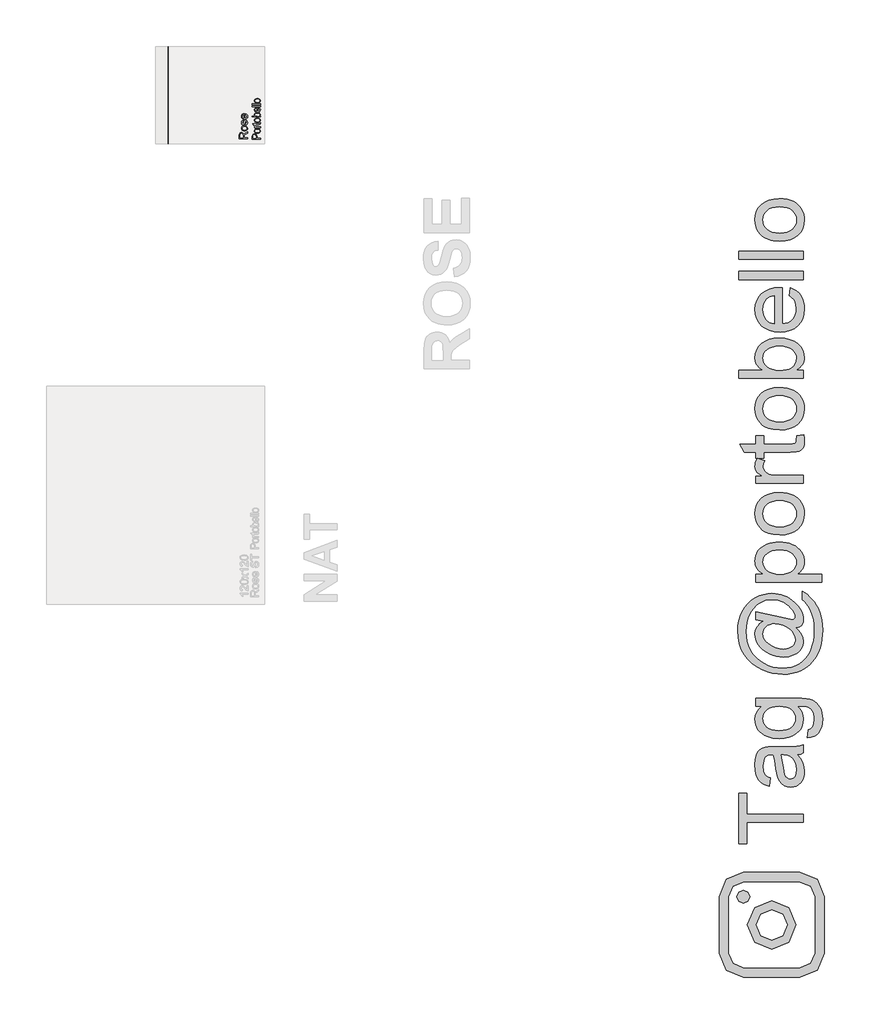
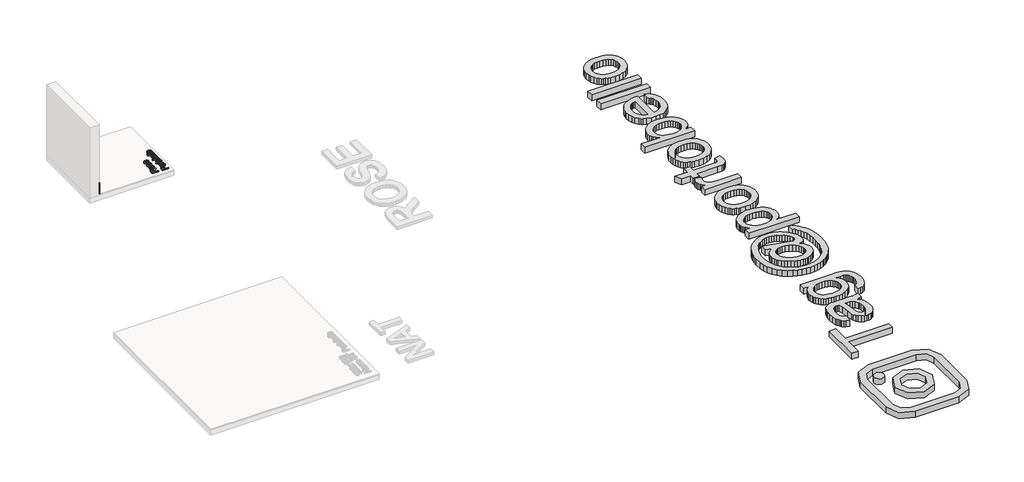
# One storey, part 4 of 14: 6 proxies.
"""IFC4 building model written with IfcOpenShell, lengths in millimetres."""

from ifc_helpers import new_model, si_unit, frame, origin, origin_with_axes, place, context, project, spatial, polyline, outline, extrude, transform, mapped, element, save
from ifc_brep_helpers import plane_surface, extruded_surface, spline_curve, advanced_brep
from components import generic_models_d67f6705

model = new_model("IFC4")

# Units and contexts
model_context = context("Model", 3, world=origin())
ifc_project = project(units=[si_unit("LENGTHUNIT", "METRE", prefix="MILLI")], contexts=[model_context])

# Site, building, storey
site = spatial("IfcSite", under=ifc_project)
building = spatial("IfcBuilding", under=site)
storey = spatial("IfcBuildingStorey", under=building, Name="PORTOBELLO - SHOWROOM", Elevation=0.0)

# Proxies
placement = place(None, origin())
element("IfcBuildingElementProxy", 1, Name="RODAPE CRISTALLO ROSE ST 20X120 NAT RET", ObjectType="RODAPE CRISTALLO ROSE ST 20X120 NAT RET", at=placement, inside=storey, context=model_context, shape_type="AdvancedBrep", body=[
    advanced_brep(
    [(-5477.6369429, -2964.6157886, 217.0), (-5477.6369429, -2964.6157886, 17.0), (-5469.6369429, -2964.6157886, 17.0), (-5469.6369429, -2964.6157886, 209.0), (-5477.6369429, -1764.6157886, 217.0), (-5469.6369429, -1764.6157886, 209.0), (-5469.6369429, -1764.6157886, 17.0), (-5477.6369429, -1764.6157886, 17.0)],
    [
        (0, 1),
        (1, 2),
        (2, 3),
        (3, 0, spline_curve(3, [(-5469.6369429, -2964.6157886, 209.0), (-5469.6369429, -2964.6157886, 214.333333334), (-5472.303609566, -2964.6157886, 217.0), (-5477.6369429, -2964.6157886, 217.0)], [4, 4], [0.0, 0.029527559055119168])),
        (4, 5, spline_curve(3, [(-5477.6369429, -1764.6157886, 217.0), (-5472.303609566, -1764.6157886, 217.0), (-5469.6369429, -1764.6157886, 214.333333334), (-5469.6369429, -1764.6157886, 209.0)], [4, 4], [0.0, 0.029527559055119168])),
        (5, 6),
        (6, 7),
        (7, 4),
        (0, 4),
        (7, 1),
        (6, 2),
        (5, 3),
    ],
    [
        plane_surface(frame((-5677.6369429, -2964.6157886, 17.0), z_axis=(0.0, -1.0, 0.0), x_axis=(0.0, 0.0, 1.0))),
        plane_surface(frame((-5677.6369429, -1764.6157886, 17.0), z_axis=(0.0, 1.0, 0.0), x_axis=(0.0, 0.0, 1.0))),
        plane_surface(frame((-5477.6369429, -2964.6157886, 217.0), z_axis=(-1.0, 0.0, 0.0), x_axis=(0.0, 1.0, 0.0))),
        plane_surface(frame((-5477.6369429, -2964.6157886, 17.0), z_axis=(0.0, 0.0, -1.0), x_axis=(0.0, 1.0, 0.0))),
        plane_surface(frame((-5469.6369429, -2964.6157886, 17.0), z_axis=(1.0, 0.0, 0.0), x_axis=(0.0, 1.0, 0.0))),
        extruded_surface(spline_curve(3, [(-5469.6369429, -1764.6157886, 209.0), (-5469.6369429, -1764.6157886, 214.333333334), (-5472.303609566, -1764.6157886, 217.0), (-5477.6369429, -1764.6157886, 217.0)], [4, 4], [0.0, 0.029527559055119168]), (0.0, -1200.0, 0.0), 1200.0),
    ],
    [
        (0, [[1, 2, 3, 4]]),
        (1, [[5, 6, 7, 8]]),
        (2, [[-1, 9, -8, 10]]),
        (3, [[-2, -10, -7, 11]]),
        (4, [[-3, -11, -6, 12]]),
        (5, [[-4, -12, -5, -9]]),
    ],
),
])
generic_models_shape = generic_models_d67f6705(model_context)
element("IfcBuildingElementProxy", 2, Name="Blks_Instagram1 : Único", ObjectType="Blks_Instagram1 : Único", at=placement, inside=storey, context=model_context, shape_type="MappedRepresentation", body=[
    mapped(generic_models_shape, transform((1999.5235049, -12631.2406298, 0.0), x_axis=(-1.0, 0.0, 0.0), y_axis=(0.0, -1.0, 0.0), z_axis=(0.0, 0.0, 1.0))),
])
element("IfcBuildingElementProxy", 3, Name="10mm Arial", ObjectType="10mm Arial", at=placement, inside=storey, context=model_context, shape_type="SweptSolid", body=[
    extrude(outline(polyline([(-4490.3932397, -2905.7397323), (-4590.8495499, -2905.7397323), (-4590.8495499, -2862.4522842), (-4588.1394858, -2842.3536645), (-4578.5500285, -2831.3662556), (-4563.3565021, -2827.25824), (-4553.4604764, -2828.9596942), (-4545.2567079, -2834.0640569), (-4539.2418373, -2842.7246122), (-4535.9125052, -2855.0946443), (-4530.5414281, -2847.9577336), (-4517.6165073, -2837.7796651), (-4490.3932397, -2821.0287716), (-4490.3932397, -2835.621424), (-4511.2153606, -2848.6934976), (-4524.9986727, -2858.1358021), (-4531.510184, -2864.7699408), (-4533.901417, -2870.7418918), (-4534.3428754, -2878.0259553), (-4534.3428754, -2893.1826935), (-4490.3932397, -2893.1826935), (-4490.3932397, -2905.7397323)]), holes=[polyline([(-4546.8999142, -2893.1826935), (-4546.8999142, -2865.0765091), (-4548.6780105, -2850.741374), (-4554.3679187, -2842.5989192), (-4562.8905182, -2839.8152788), (-4573.9515035, -2845.1250422), (-4578.2925111, -2861.912724), (-4578.2925111, -2893.1826935), (-4546.8999142, -2893.1826935)])]), frame((0.0, 0.0, 18.0), z_axis=(0.0, 0.0, 1.0), x_axis=(1.0, 0.0, 0.0)), (0.0, 0.0, 1.0), 20.0),
    extrude(outline(polyline([(-4527.2795411, -2809.9923117), (-4545.0666356, -2807.2761163), (-4557.568492, -2799.1275301), (-4563.6937272, -2789.0598262), (-4565.7354723, -2777.0055595), (-4563.2492032, -2763.8139243), (-4555.7903957, -2753.2771708), (-4543.9476612, -2746.3701863), (-4528.3096107, -2744.0678582), (-4505.9669108, -2748.1390856), (-4493.3240329, -2759.9971486), (-4488.8236099, -2777.0055595), (-4491.300682, -2790.3566102), (-4498.7318983, -2800.881101), (-4510.8229532, -2807.714509), (-4527.2795411, -2809.9923117)]), holes=[polyline([(-4527.3040666, -2797.4352729), (-4515.9395786, -2795.9821391), (-4507.843109, -2791.6227374), (-4502.9962637, -2785.0621752), (-4501.3806486, -2777.0055595), (-4503.0054608, -2768.985732), (-4507.8798972, -2762.4374325), (-4516.0836657, -2758.0780308), (-4527.696474, -2756.6248969), (-4538.7298682, -2758.0872279), (-4546.7159732, -2762.4742207), (-4551.5628185, -2769.0317172), (-4553.1784336, -2777.0055595), (-4551.5689498, -2785.0621752), (-4546.7404986, -2791.6227374), (-4538.6624232, -2795.9821391), (-4527.3040666, -2797.4352729)])]), frame((0.0, 0.0, 18.0), z_axis=(0.0, 0.0, 1.0), x_axis=(1.0, 0.0, 0.0)), (0.0, 0.0, 1.0), 20.0),
    extrude(outline(polyline([(-4512.3680576, -2734.6500791), (-4513.9376874, -2722.0930403), (-4504.6180102, -2716.2805048), (-4501.3806486, -2702.9631766), (-4504.3482301, -2690.1608831), (-4511.3134625, -2685.9915539), (-4516.9543198, -2690.1854086), (-4520.5350378, -2703.1103294), (-4526.6786672, -2722.0194639), (-4533.8523661, -2730.2722834), (-4543.9813837, -2733.0804492), (-4553.3378491, -2730.8241063), (-4560.4870225, -2724.6682143), (-4564.2026307, -2716.685175), (-4565.7354723, -2705.8817071), (-4563.270663, -2690.6023415), (-4556.5997361, -2680.8902569), (-4545.3302843, -2676.5737748), (-4543.7606545, -2689.1308136), (-4550.6890987, -2693.8519658), (-4553.1784336, -2704.9006884), (-4550.7994633, -2716.9181669), (-4545.2567079, -2720.5234105), (-4541.6024134, -2719.027357), (-4538.8310357, -2714.342993), (-4536.1577599, -2703.5272623), (-4530.2471225, -2685.0963743), (-4523.5516702, -2676.5369866), (-4512.6378377, -2673.4345151), (-4500.6203592, -2677.0765468), (-4491.9015559, -2687.5857092), (-4488.8236099, -2703.1348548), (-4490.3074006, -2715.7961268), (-4494.7587727, -2725.0360963), (-4502.1286754, -2731.2042511), (-4512.3680576, -2734.6500791)])), frame((0.0, 0.0, 18.0), z_axis=(0.0, 0.0, 1.0), x_axis=(1.0, 0.0, 0.0)), (0.0, 0.0, 1.0), 20.0),
    extrude(outline(polyline([(-4512.3680576, -2607.6572144), (-4510.7984277, -2595.3454303), (-4501.5216701, -2599.781474), (-4494.5870945, -2606.8601367), (-4490.264481, -2616.4220029), (-4488.8236099, -2628.307657), (-4491.309879, -2643.0413309), (-4498.7686865, -2654.3782277), (-4510.7156543, -2661.607109), (-4526.6664044, -2664.016736), (-4543.1536492, -2661.5825835), (-4555.4838274, -2654.2801259), (-4563.1725611, -2643.0965132), (-4565.7354723, -2629.0188955), (-4563.1786925, -2615.3796706), (-4555.5083529, -2604.4811665), (-4543.2027001, -2597.3350587), (-4526.7399808, -2594.9530228), (-4523.3554665, -2595.0265992), (-4523.3554665, -2651.4596973), (-4513.9560815, -2649.2861278), (-4507.0460314, -2644.2369474), (-4502.7969943, -2636.9498182), (-4501.3806486, -2628.0624024), (-4504.0048735, -2615.7506183), (-4512.3680576, -2607.6572144)]), holes=[polyline([(-4535.9125052, -2651.4596973), (-4535.9125052, -2607.5100616), (-4547.2923216, -2612.5377822), (-4551.7069056, -2619.8586339), (-4553.1784336, -2629.0679465), (-4548.4818067, -2644.531253), (-4542.991168, -2649.3964924), (-4535.9125052, -2651.4596973)])]), frame((0.0, 0.0, 18.0), z_axis=(0.0, 0.0, 1.0), x_axis=(1.0, 0.0, 0.0)), (0.0, 0.0, 1.0), 20.0),
])
element("IfcBuildingElementProxy", 4, Name="10mm Arial Narrow", ObjectType="10mm Arial Narrow", at=placement, inside=storey, context=model_context, shape_type="SweptSolid", body=[
    extrude(outline(polyline([(-4330.3932397, -2908.6046732), (-4431.1118435, -2908.6046732), (-4431.1118435, -2877.3077885), (-4429.2335227, -2861.012087), (-4419.7530796, -2849.5391009), (-4402.7339707, -2845.2494224), (-4390.6581452, -2847.0357308), (-4381.0317514, -2852.3946561), (-4374.730493, -2862.1384449), (-4372.6300735, -2877.0793441), (-4372.6300735, -2898.8577115), (-4330.3932397, -2898.8577115), (-4330.3932397, -2908.6046732)]), holes=[polyline([(-4384.0015288, -2898.8577115), (-4384.0015288, -2875.8863566), (-4388.532343, -2860.0221612), (-4402.2009338, -2854.9963841), (-4412.3667102, -2857.4711986), (-4418.16666, -2863.4488274), (-4419.7403882, -2876.114801), (-4419.7403882, -2898.8577115), (-4384.0015288, -2898.8577115)])]), frame((0.0, 0.0, 18.0), z_axis=(0.0, 0.0, 1.0), x_axis=(1.0, 0.0, 0.0)), (0.0, 0.0, 1.0), 20.0),
    extrude(outline(polyline([(-4366.9443459, -2837.1269544), (-4383.5351215, -2835.1724855), (-4395.4872063, -2829.3090789), (-4402.7117609, -2820.4505122), (-4405.1199457, -2809.5105631), (-4402.7117609, -2798.6975275), (-4395.4872063, -2789.813578), (-4383.7254918, -2783.8740233), (-4367.7058273, -2781.8941717), (-4350.5439407, -2783.8391221), (-4338.4014855, -2789.6739731), (-4331.176931, -2798.5230213), (-4328.7687461, -2809.5105631), (-4331.1832766, -2820.3711912), (-4338.4268683, -2829.2456221), (-4350.3852987, -2835.1566213), (-4366.9443459, -2837.1269544)]), holes=[polyline([(-4366.9697286, -2827.3799927), (-4354.4179772, -2826.0759559), (-4345.5467192, -2822.1638453), (-4340.2734606, -2816.3226486), (-4338.5157078, -2809.2313532), (-4340.2893248, -2802.51128), (-4345.6101759, -2796.8192067), (-4354.4972982, -2792.9356517), (-4366.9697286, -2791.6411334), (-4379.483406, -2792.9451702), (-4388.3419727, -2796.8572808), (-4393.6152312, -2802.6984775), (-4395.3729841, -2809.7897729), (-4393.6057127, -2816.5574386), (-4388.3038986, -2822.2399934), (-4379.4358134, -2826.0949929), (-4366.9697286, -2827.3799927)])]), frame((0.0, 0.0, 18.0), z_axis=(0.0, 0.0, 1.0), x_axis=(1.0, 0.0, 0.0)), (0.0, 0.0, 1.0), 20.0),
    extrude(outline(polyline([(-4338.5157078, -2710.4164529), (-4328.7687461, -2708.7919593), (-4328.7687461, -2716.152946), (-4330.8882026, -2724.4277103), (-4336.6881524, -2728.7427714), (-4351.3339776, -2729.9103762), (-4393.7484905, -2729.9103762), (-4393.7484905, -2738.0328443), (-4396.9974777, -2738.0328443), (-4392.1239968, -2739.6573379), (-4393.7484905, -2747.2213862), (-4391.4259722, -2753.3005459), (-4384.9406892, -2757.1714096), (-4369.5333826, -2759.1512612), (-4330.3932397, -2759.1512612), (-4330.3932397, -2768.8982228), (-4403.4954521, -2768.8982228), (-4403.4954521, -2759.1512612), (-4393.7992559, -2759.1512612), (-4402.886267, -2752.9071139), (-4405.1199457, -2746.5106703), (-4403.4954521, -2738.0328443), (-4403.4954521, -2729.9103762), (-4419.7403882, -2729.9103762), (-4427.8628562, -2720.1634146), (-4403.4954521, -2720.1634146), (-4403.4954521, -2710.4164529), (-4393.7484905, -2710.4164529), (-4393.7484905, -2720.1634146), (-4349.1002989, -2720.1634146), (-4341.1047444, -2719.3004023), (-4338.5157078, -2714.6807486), (-4338.5157078, -2710.4164529)])), frame((0.0, 0.0, 18.0), z_axis=(0.0, 0.0, 1.0), x_axis=(1.0, 0.0, 0.0)), (0.0, 0.0, 1.0), 20.0),
    extrude(outline(polyline([(-4366.9443459, -2703.9184785), (-4383.5351215, -2701.9640096), (-4395.4872063, -2696.100603), (-4402.7117609, -2687.2420363), (-4405.1199457, -2676.3020871), (-4402.7117609, -2665.4890515), (-4395.4872063, -2656.6051021), (-4383.7254918, -2650.6655474), (-4367.7058273, -2648.6856958), (-4350.5439407, -2650.6306461), (-4338.4014855, -2656.4654972), (-4331.176931, -2665.3145454), (-4328.7687461, -2676.3020871), (-4331.1832766, -2687.1627153), (-4338.4268683, -2696.0371462), (-4350.3852987, -2701.9481454), (-4366.9443459, -2703.9184785)]), holes=[polyline([(-4366.9697286, -2694.1715168), (-4354.4179772, -2692.86748), (-4345.5467192, -2688.9553694), (-4340.2734606, -2683.1141726), (-4338.5157078, -2676.0228773), (-4340.2893248, -2669.3028041), (-4345.6101759, -2663.6107308), (-4354.4972982, -2659.7271758), (-4366.9697286, -2658.4326574), (-4379.483406, -2659.7366943), (-4388.3419727, -2663.6488049), (-4393.6152312, -2669.4900016), (-4395.3729841, -2676.581297), (-4393.6057127, -2683.3489627), (-4388.3038986, -2689.0315175), (-4379.4358134, -2692.886517), (-4366.9697286, -2694.1715168)])]), frame((0.0, 0.0, 18.0), z_axis=(0.0, 0.0, 1.0), x_axis=(1.0, 0.0, 0.0)), (0.0, 0.0, 1.0), 20.0),
    extrude(outline(polyline([(-4330.3932397, -2625.9427852), (-4330.3932397, -2635.6897469), (-4431.1118435, -2635.6897469), (-4431.1118435, -2625.9427852), (-4395.7029593, -2625.9427852), (-4402.7847362, -2618.5437245), (-4405.1199457, -2609.3424912), (-4400.9191068, -2596.4607645), (-4388.1896764, -2587.183383), (-4367.5027656, -2583.7059514), (-4351.0484221, -2585.6382104), (-4338.845683, -2591.4349874), (-4331.2879803, -2599.8081097), (-4328.7687461, -2609.4694047), (-4331.3831655, -2618.810243), (-4339.1502756, -2625.9427852), (-4330.3932397, -2625.9427852)]), holes=[polyline([(-4367.5027656, -2625.9427852), (-4350.2552123, -2623.8614028), (-4341.5235592, -2617.9726135), (-4338.5157078, -2609.5201702), (-4340.305189, -2603.5774426), (-4345.6736327, -2598.3390852), (-4367.0966422, -2593.4529131), (-4388.532343, -2598.1614063), (-4393.6628238, -2603.4061093), (-4395.3729841, -2609.7232319), (-4393.5835028, -2615.7008607), (-4388.2150591, -2620.9931563), (-4367.5027656, -2625.9427852)])]), frame((0.0, 0.0, 18.0), z_axis=(0.0, 0.0, 1.0), x_axis=(1.0, 0.0, 0.0)), (0.0, 0.0, 1.0), 20.0),
    extrude(outline(polyline([(-4353.1361502, -2531.7221559), (-4351.5116566, -2521.9751943), (-4341.62509, -2525.6747246), (-4334.5052392, -2531.4937115), (-4330.2028694, -2539.1973648), (-4328.7687461, -2548.5508944), (-4331.1832766, -2560.1444484), (-4338.4268683, -2569.2885706), (-4350.2330025, -2575.2281254), (-4366.3351608, -2577.207977), (-4383.0020845, -2575.2186069), (-4395.1826137, -2569.2504966), (-4402.6356127, -2560.2364607), (-4405.1199457, -2549.1093141), (-4402.7212794, -2538.4263649), (-4395.5252803, -2529.6788476), (-4383.7857757, -2523.8439965), (-4367.7565927, -2521.8990461), (-4364.5076055, -2521.9751943), (-4364.5076055, -2567.4610153), (-4345.0644476, -2561.4580038), (-4340.1528927, -2555.5279675), (-4338.5157078, -2548.4239808), (-4342.1708184, -2538.2455131), (-4353.1361502, -2531.7221559)]), holes=[polyline([(-4374.2545671, -2566.8010648), (-4374.2545671, -2531.7221559), (-4388.5196517, -2535.9864516), (-4393.659651, -2541.8117842), (-4395.3729841, -2549.0331659), (-4389.6618737, -2561.2422507), (-4374.2545671, -2566.8010648)])]), frame((0.0, 0.0, 18.0), z_axis=(0.0, 0.0, 1.0), x_axis=(1.0, 0.0, 0.0)), (0.0, 0.0, 1.0), 20.0),
    extrude(outline(polyline([(-4330.3932397, -2508.9792454), (-4431.1118435, -2508.9792454), (-4431.1118435, -2499.2322837), (-4330.3932397, -2499.2322837), (-4330.3932397, -2508.9792454)])), frame((0.0, 0.0, 18.0), z_axis=(0.0, 0.0, 1.0), x_axis=(1.0, 0.0, 0.0)), (0.0, 0.0, 1.0), 20.0),
    extrude(outline(polyline([(-4330.3932397, -2482.9873477), (-4431.1118435, -2482.9873477), (-4431.1118435, -2473.240386), (-4330.3932397, -2473.240386), (-4330.3932397, -2482.9873477)])), frame((0.0, 0.0, 18.0), z_axis=(0.0, 0.0, 1.0), x_axis=(1.0, 0.0, 0.0)), (0.0, 0.0, 1.0), 20.0),
    extrude(outline(polyline([(-4366.9443459, -2461.8689307), (-4383.5351215, -2459.9144619), (-4395.4872063, -2454.0510552), (-4402.7117609, -2445.1924885), (-4405.1199457, -2434.2525394), (-4402.7117609, -2423.4395038), (-4395.4872063, -2414.5555544), (-4383.7254918, -2408.6159996), (-4367.7058273, -2406.636148), (-4350.5439407, -2408.5810984), (-4338.4014855, -2414.4159495), (-4331.176931, -2423.2649977), (-4328.7687461, -2434.2525394), (-4331.1832766, -2445.1131676), (-4338.4268683, -2453.9875985), (-4350.3852987, -2459.8985977), (-4366.9443459, -2461.8689307)]), holes=[polyline([(-4366.9697286, -2452.1219691), (-4354.4179772, -2450.8179322), (-4345.5467192, -2446.9058216), (-4340.2734606, -2441.0646249), (-4338.5157078, -2433.9733296), (-4340.2893248, -2427.2532564), (-4345.6101759, -2421.5611831), (-4354.4972982, -2417.677628), (-4366.9697286, -2416.3831097), (-4379.483406, -2417.6871466), (-4388.3419727, -2421.5992571), (-4393.6152312, -2427.4404539), (-4395.3729841, -2434.5317492), (-4393.6057127, -2441.299415), (-4388.3038986, -2446.9819698), (-4379.4358134, -2450.8369693), (-4366.9697286, -2452.1219691)])]), frame((0.0, 0.0, 18.0), z_axis=(0.0, 0.0, 1.0), x_axis=(1.0, 0.0, 0.0)), (0.0, 0.0, 1.0), 20.0),
])
element("IfcBuildingElementProxy", 5, Name="80mm Arial", ObjectType="80mm Arial", at=placement, inside=storey, context=model_context, shape_type="SweptSolid", body=[
    extrude(outline(polyline([(2391.2364896, -11363.1133966), (1691.7713786, -11363.1133966), (1691.7713786, -11625.4128133), (1591.8477913, -11625.4128133), (1591.8477913, -11000.8903927), (1691.7713786, -11000.8903927), (1691.7713786, -11263.1898093), (2391.2364896, -11263.1898093), (2391.2364896, -11363.1133966)])), origin_with_axes(), (0.0, 0.0, 1.0), 100.0),
    extrude(outline(polyline([(2316.2937991, -10526.2533531), (2357.2292922, -10573.9951647), (2372.3910377, -10598.3966706), (2384.0154491, -10623.1519099), (2398.7990658, -10674.8457774), (2403.726938, -10730.198956), (2400.7628961, -10774.6900796), (2391.8707702, -10813.7044344), (2377.0505604, -10847.2420202), (2356.3022667, -10875.3028372), (2330.9432411, -10897.4599656), (2302.2908355, -10913.286486), (2270.3450499, -10922.7823982), (2235.1058845, -10925.9477022), (2193.6824833, -10921.1662025), (2156.0647656, -10906.8217031), (2123.8628283, -10884.6950689), (2098.6867682, -10856.5671646), (2079.6583507, -10823.511388), (2065.8993411, -10786.6011371), (2050.8717704, -10700.1438145), (2035.0635466, -10597.9758498), (2016.5230373, -10526.8388428), (1994.274426, -10526.2533531), (1970.0497868, -10527.9732293), (1949.6796219, -10533.1328579), (1933.1639313, -10541.7322388), (1920.5027151, -10553.7713722), (1907.8658942, -10574.5806544), (1898.8395936, -10599.9274824), (1893.4238133, -10629.811856), (1891.6185531, -10664.2337754), (1896.4244483, -10723.7585686), (1902.4318173, -10746.7878328), (1910.8421339, -10765.3283422), (1922.3140741, -10780.5632739), (1937.5063138, -10793.6758052), (1956.4188531, -10804.6659361), (1979.051692, -10813.5336665), (1966.5612436, -10913.4572538), (1911.9155318, -10896.1121194), (1888.9838492, -10884.237655), (1868.9796154, -10870.2285925), (1851.5003062, -10853.4811456), (1836.1433975, -10833.3915279), (1822.9088892, -10809.9597394), (1811.7967813, -10783.1857802), (1796.7204197, -10721.7825406), (1791.6949658, -10651.3530004), (1796.1349299, -10583.8021183), (1809.4548222, -10530.2541998), (1829.4834514, -10489.8798011), (1854.0496263, -10461.8494784), (1884.4219081, -10443.2601783), (1921.8688579, -10431.2088472), (1956.4127543, -10427.5495361), (2009.3019968, -10426.3297658), (2133.6209911, -10426.3297658), (2241.912203, -10425.0612046), (2307.2187077, -10421.2555211), (2350.1302287, -10413.7417357), (2391.2364896, -10401.3488689), (2391.2364896, -10501.2724562), (2356.49743, -10517.2758433), (2316.2937991, -10526.2533531)]), holes=[polyline([(2116.4466245, -10526.2533531), (2133.0842922, -10593.3895133), (2147.0872558, -10687.4582029), (2154.7474136, -10739.2984429), (2163.2858061, -10773.4276173), (2174.3613209, -10795.7982056), (2189.6328457, -10812.362687), (2207.929401, -10822.608758), (2228.0800072, -10826.0241149), (2243.6076838, -10824.1639652), (2257.793613, -10818.5835158), (2270.6377948, -10809.2827669), (2282.1402293, -10796.2617183), (2291.6178449, -10779.6423473), (2298.3875704, -10759.5466307), (2303.8033507, -10708.9261611), (2297.826476, -10655.2562656), (2290.3553826, -10630.7632769), (2279.8958518, -10607.8315943), (2253.475626, -10569.3844327), (2222.0299463, -10542.6470666), (2189.6328457, -10530.7908988), (2144.7452967, -10526.8388428), (2116.4466245, -10526.2533531)])]), origin_with_axes(), (0.0, 0.0, 1.0), 100.0),
    extrude(outline(polyline([(2441.1982832, -10313.9157301), (2453.6887317, -10213.9921428), (2470.5215625, -10209.7717374), (2484.9148527, -10202.9654188), (2496.8686021, -10193.5731871), (2506.3828109, -10181.5950422), (2516.1165783, -10162.2128913), (2523.0692693, -10139.5861513), (2528.6314221, -10084.5989038), (2527.0579184, -10053.3971781), (2522.3374071, -10025.9523452), (2514.4698883, -10002.264405), (2503.455362, -9982.3333574), (2489.5987708, -9965.7444806), (2473.2050573, -9952.0830526), (2454.2742214, -9941.3490735), (2432.8062632, -9933.5425433), (2389.821556, -9928.1267629), (2316.2937991, -9926.7118293), (2349.0812262, -9959.9627691), (2372.500817, -9997.0681832), (2386.5525714, -10038.0280717), (2391.2364896, -10082.8424345), (2385.7841161, -10137.6284198), (2369.4269957, -10185.8642384), (2357.1591554, -10207.5258352), (2342.1651283, -10227.5498902), (2303.998514, -10262.6853753), (2258.2083349, -10290.5632267), (2208.0757734, -10310.4759777), (2153.6008295, -10322.4236283), (2094.7835031, -10326.4061785), (2053.6345502, -10324.6192149), (2014.107892, -10319.2583242), (1976.2035282, -10310.3235064), (1939.9214591, -10297.8147614), (1906.4692572, -10281.9211537), (1877.0544951, -10262.8317477), (1851.6771729, -10240.5465434), (1830.3372906, -10215.0655407), (1813.4312735, -10186.7973628), (1801.355547, -10156.1506326), (1794.1101111, -10123.1253503), (1791.6949658, -10087.7215159), (1797.159537, -10040.9921136), (1813.5532506, -9998.5806985), (1840.8761065, -9960.4872704), (1879.1281047, -9926.7118293), (1804.1854143, -9926.7118293), (1804.1854143, -9826.788242), (2311.0243912, -9826.788242), (2374.5317346, -9828.4959205), (2428.0491588, -9833.618956), (2471.5766639, -9842.1573485), (2505.1142497, -9854.1110979), (2532.1626573, -9869.7668504), (2556.2226275, -9889.4112519), (2577.2941603, -9913.0443025), (2595.3772558, -9940.6660021), (2609.892523, -9971.9958036), (2620.260571, -10006.7531598), (2626.4813998, -10044.9380707), (2628.5550094, -10086.5505363), (2625.6336594, -10135.5060194), (2616.8696094, -10179.5214326), (2602.2628595, -10218.5967759), (2581.8134095, -10252.7320492), (2555.4968641, -10280.304958), (2523.288828, -10299.6932078), (2485.189301, -10310.8967984), (2441.1982832, -10313.9157301)]), holes=[polyline([(2087.9527891, -10226.4825912), (2137.3595872, -10223.817393), (2179.6063334, -10215.8217983), (2214.6930276, -10202.4958072), (2242.6196698, -10183.8394197), (2263.922959, -10161.1577899), (2279.1395942, -10135.7560724), (2288.2695753, -10107.6342669), (2291.3129023, -10076.7923735), (2288.2878718, -10046.2554227), (2279.2127804, -10018.267792), (2264.087628, -9992.8294813), (2242.9124147, -9969.9404906), (2215.2602208, -9951.0279513), (2180.7041267, -9937.5189946), (2139.2441324, -9929.4136206), (2090.880238, -9926.7118293), (2044.5350634, -9929.4929057), (2004.2521475, -9937.8361349), (1970.0314903, -9951.7415169), (1941.8730917, -9971.2090518), (1919.8867311, -9994.5920494), (1904.1821878, -10020.24382), (1894.7594618, -10048.1643633), (1891.6185531, -10078.3536796), (1894.710671, -10108.0367911), (1903.9870245, -10135.4145367), (1919.4476137, -10160.4869163), (1941.0924386, -10183.2539299), (1968.8239176, -10202.1664692), (2002.544469, -10215.6754259), (2042.2540928, -10223.7807999), (2087.9527891, -10226.4825912)])]), origin_with_axes(), (0.0, 0.0, 1.0), 100.0),
])
element("IfcBuildingElementProxy", 6, Name="80mm Arial", ObjectType="80mm Arial", at=placement, inside=storey, context=model_context, shape_type="SweptSolid", body=[
    extrude(outline(polyline([(2299.7049223, -8955.7052888), (2337.0054997, -8992.9570753), (2366.1580111, -9034.4536627), (2384.96687, -9078.1458368), (2391.2364896, -9121.9843833), (2389.4434272, -9145.9162776), (2384.0642399, -9169.5066362), (2375.0989278, -9192.7554591), (2362.5474909, -9215.6627463), (2346.2757544, -9237.3319667), (2326.1495436, -9256.8665889), (2302.1688584, -9274.2666129), (2274.333699, -9289.5320389), (2243.8394402, -9301.9553999), (2211.8814569, -9310.8292293), (2178.4597493, -9316.1535268), (2143.5743172, -9317.9282927), (2099.7357707, -9315.1777106), (2055.8484334, -9306.9259641), (2011.9123053, -9293.1730534), (1967.9273864, -9273.9189784), (1926.6625554, -9250.5725738), (1890.8866909, -9224.5426745), (1860.5997931, -9195.8292804), (1835.8018618, -9164.4323915), (1816.5050948, -9131.9316105), (1802.7216898, -9099.9065399), (1794.4516468, -9068.3571797), (1791.6949658, -9037.28353), (1793.2623707, -9014.120091), (1797.9645855, -8991.4689555), (1816.7734443, -8947.7035953), (1830.9532746, -8927.0772786), (1848.4142872, -8907.9390818), (1893.1798592, -8874.1270476), (1804.1854143, -8855.7817015), (1804.1854143, -8755.8581142), (2170.7020098, -8838.6073349), (2255.2076999, -8855.7817015), (2268.9911049, -8852.9762297), (2280.6765048, -8844.5598142), (2288.6538029, -8832.1913429), (2291.3129023, -8817.5297032), (2289.3368743, -8801.8556542), (2283.4087904, -8783.9128323), (2259.6964548, -8741.22087), (2237.3319653, -8711.6231423), (2211.4179442, -8685.2822016), (2181.9543913, -8662.1980477), (2148.9413067, -8642.3706806), (2113.879008, -8626.4465786), (2078.2678125, -8615.0722201), (2042.1077204, -8608.247605), (2005.3987316, -8605.9727332), (1962.9751188, -8608.9001821), (1921.9664395, -8617.6825286), (1882.3726939, -8632.3197729), (1844.1938818, -8652.8119148), (1808.5948841, -8679.1162624), (1776.7405813, -8711.1901239), (1748.6309735, -8749.0334991), (1724.2660607, -8792.646388), (1704.5850661, -8840.3577054), (1690.5272128, -8890.4963657), (1682.0925008, -8943.0623691), (1679.2809301, -8998.0557154), (1682.8487584, -9060.7885047), (1693.5522433, -9120.7646129), (1711.3913847, -9177.9840401), (1736.3661826, -9232.4467864), (1768.0009267, -9282.5427548), (1805.8199065, -9326.6618484), (1849.823122, -9364.8040674), (1900.0105732, -9396.9694116), (1954.241563, -9422.499205), (2010.3753947, -9440.7347718), (2068.4120681, -9451.6761119), (2128.3515832, -9455.3232252), (2190.0414688, -9451.712705), (2247.2791926, -9440.8811443), (2300.0647546, -9422.828543), (2348.3981548, -9397.5549013), (2391.4926414, -9365.4444468), (2428.5614624, -9326.8814071), (2459.6046179, -9281.8657822), (2484.6221078, -9230.3975722), (2503.8761828, -9174.2332463), (2517.6290935, -9115.1292739), (2525.88084, -9053.0856549), (2528.6314221, -8988.1023893), (2525.8991365, -8919.8562381), (2517.7022798, -8857.3917983), (2504.0408518, -8800.7090701), (2484.9148527, -8749.8080532), (2461.8855884, -8704.8107249), (2436.5143651, -8665.8390622), (2408.8011827, -8632.8930649), (2378.7460412, -8605.9727332), (2378.7460412, -8506.049146), (2408.0571228, -8522.2781905), (2437.6365538, -8543.447305), (2467.4843343, -8569.5564894), (2497.6004644, -8600.6057437), (2526.2711665, -8635.7168333), (2551.7826634, -8674.0115235), (2574.1349551, -8715.4898144), (2593.3280416, -8760.1517058), (2608.73984, -8808.7717521), (2619.7482675, -8862.1245073), (2626.3533239, -8920.2099715), (2628.5550094, -8983.0281447), (2626.6094757, -9041.8759653), (2620.7728746, -9098.3940246), (2611.045206, -9152.5823225), (2597.42647, -9204.4408591), (2579.9105678, -9253.2621675), (2558.4914004, -9298.3387808), (2533.1689678, -9339.6706992), (2503.9432702, -9377.2579227), (2471.5766639, -9410.7650143), (2436.8315054, -9439.8565372), (2399.7077947, -9464.5324914), (2360.2055318, -9484.792877), (2307.657825, -9504.6873314), (2253.060904, -9518.897656), (2196.4147689, -9527.4238508), (2137.7194195, -9530.2659157), (2071.9615998, -9526.8749541), (2007.7894815, -9516.7020694), (1945.2030647, -9499.7472615), (1884.2023494, -9476.0105304), (1814.6571427, -9439.5515946), (1753.7601079, -9396.1399677), (1701.5112448, -9345.7756499), (1657.9105536, -9288.458641), (1623.5435239, -9224.4328952), (1598.9956455, -9153.9423665), (1584.2669185, -9076.9870549), (1579.3573428, -8993.5669605), (1582.7970952, -8928.1384788), (1593.1163524, -8866.1253541), (1610.3151144, -8807.5275863), (1634.3933812, -8752.3451756), (1665.2901642, -8701.6881128), (1702.944475, -8656.6663891), (1747.3563135, -8617.2800044), (1798.5256798, -8583.5289588), (1846.4016662, -8560.560683), (1896.3512621, -8544.1547718), (1948.3744676, -8534.311225), (2002.4712828, -8531.0300428), (2041.2020409, -8532.7316224), (2078.8411046, -8537.8363613), (2115.3884738, -8546.3442596), (2150.8441485, -8558.2553171), (2185.2081288, -8573.5695338), (2218.4804145, -8592.2869099), (2250.6610059, -8614.4074452), (2281.7499027, -8639.9311399), (2329.6502845, -8689.7465611), (2363.8648429, -8741.8063597), (2375.8399383, -8768.6779006), (2384.3935779, -8796.1105358), (2389.5257617, -8824.1042654), (2391.2364896, -8852.6590894), (2388.3578316, -8885.9832154), (2379.7218575, -8912.1838826), (2365.7676846, -8931.8465807), (2346.9344304, -8945.5567994), (2328.1987578, -8951.6068604), (2299.7049223, -8955.7052888)]), holes=[polyline([(2145.1356232, -9218.0047054), (2177.8498641, -9215.8152176), (2206.7096306, -9209.2467543), (2231.7149229, -9198.2993154), (2252.8657408, -9182.9729009), (2269.686374, -9164.8166192), (2281.7011119, -9145.3795786), (2288.9099547, -9124.6617792), (2291.3129023, -9102.6632209), (2287.0681015, -9071.6078677), (2274.333699, -9038.9424176), (2253.2560673, -9006.2281768), (2223.9815788, -8975.0264512), (2186.1199071, -8947.3376642), (2139.2807255, -8925.1622391), (2087.8552075, -8910.5981811), (2036.2345262, -8905.7434951), (2003.8069313, -8908.0183668), (1975.2216131, -8914.842982), (1950.4785715, -8926.2173405), (1929.5778065, -8942.1414425), (1912.9706332, -8961.334529), (1901.1083665, -8982.5158411), (1893.9910065, -9005.685379), (1891.6185531, -9030.8431425), (1895.7413769, -9064.3624318), (1908.1098483, -9095.8325069), (1929.5778065, -9125.8144622), (1960.9990908, -9154.869392), (2001.3246987, -9180.6309418), (2049.5056276, -9200.7327572), (2099.4674212, -9213.6867184), (2145.1356232, -9218.0047054)])]), origin_with_axes(), (0.0, 0.0, 1.0), 100.0),
    extrude(outline(polyline([(2616.064561, -8393.6351103), (1804.1854143, -8393.6351103), (1804.1854143, -8293.711523), (1902.157369, -8293.711523), (1853.8300676, -8261.1192591), (1834.8443421, -8243.3594028), (1819.3105666, -8224.6237302), (1807.2287413, -8204.3755423), (1798.598866, -8182.0781403), (1793.4209409, -8157.731524), (1791.6949658, -8131.3356936), (1794.1101111, -8096.4868546), (1801.355547, -8063.7604161), (1813.4312735, -8033.1563779), (1830.3372906, -8004.6747402), (1851.634481, -7978.9375857), (1876.8837273, -7956.5669975), (1906.0850295, -7937.5629754), (1939.2383877, -7921.9255195), (1975.2094154, -7909.7156182), (2012.8637262, -7900.9942602), (2052.2013201, -7895.7614454), (2093.222197, -7894.0171738), (2137.0790401, -7895.9871029), (2178.6793079, -7901.8968903), (2218.0230007, -7911.7465359), (2255.1101182, -7925.5360397), (2288.9709432, -7943.0763374), (2318.6357582, -7964.1783645), (2344.1045632, -7988.842121), (2365.3773581, -8017.067607), (2382.1552993, -8047.470383), (2394.139543, -8078.6660098), (2401.3300893, -8110.6544873), (2403.726938, -8143.4358155), (2402.12294, -8167.0200753), (2397.310946, -8189.372367), (2389.2909559, -8210.4926906), (2378.0629698, -8230.3810462), (2349.00804, -8265.486037), (2313.171187, -8293.711523), (2616.064561, -8293.711523), (2616.064561, -8393.6351103)]), holes=[polyline([(2102.3948701, -8293.711523), (2150.5514036, -8291.0097316), (2191.9748048, -8282.9043576), (2226.6650736, -8269.395401), (2254.6222101, -8250.4828617), (2276.1389591, -8227.715848), (2291.5080656, -8202.6434684), (2300.7295294, -8175.2657229), (2303.8033507, -8145.5826113), (2300.6197501, -8115.4725802), (2291.0689482, -8087.5947288), (2275.1509451, -8061.9490571), (2252.8657408, -8038.5355652), (2223.8961949, -8019.0253384), (2187.9251672, -8005.0894621), (2144.9526577, -7996.7279363), (2094.9786663, -7993.9407611), (2047.2368547, -7996.660849), (2005.8866398, -8004.8211126), (1970.9280215, -8018.4215521), (1942.3609998, -8037.4621673), (1920.1611794, -8060.2840706), (1904.3041648, -8085.2283743), (1894.7899561, -8112.2950784), (1891.6185531, -8141.4841829), (1894.9912182, -8170.5818047), (1905.1092132, -8197.9595503), (1921.9725384, -8223.6174196), (1945.5811935, -8247.5554128), (1975.6180385, -8267.748711), (2011.7659329, -8282.1724954), (2054.0248767, -8290.8267661), (2102.3948701, -8293.711523)])]), origin_with_axes(), (0.0, 0.0, 1.0), 100.0),
    extrude(outline(polyline([(2097.7109519, -7806.5840349), (2021.6826658, -7801.1804522), (1987.6114305, -7794.4259739), (1956.1688002, -7784.9697043), (1927.354775, -7772.8116433), (1901.169355, -7757.9517909), (1877.6125401, -7740.3901473), (1856.6843302, -7720.1267123), (1828.2514833, -7682.0454819), (1807.9423069, -7640.0121955), (1795.7568011, -7594.0268532), (1791.6949658, -7544.089455), (1796.6411346, -7488.9619339), (1811.479641, -7439.1160185), (1836.2104849, -7394.5517086), (1870.8336663, -7355.2690044), (1914.1782058, -7323.2073407), (1965.0731238, -7300.3061523), (2023.5184202, -7286.5654393), (2089.5140952, -7281.9852016), (2143.0010251, -7284.0100204), (2190.4622895, -7290.0844768), (2231.8978884, -7300.2085707), (2267.3078218, -7314.3823022), (2297.8935634, -7332.4288046), (2324.856587, -7354.1712111), (2348.1968927, -7379.6095218), (2367.9144805, -7408.7437367), (2383.5824306, -7440.4394693), (2394.7738236, -7473.5623332), (2401.4886594, -7508.1123285), (2403.726938, -7544.089455), (2398.7990658, -7600.0220245), (2384.0154491, -7650.3314527), (2359.376088, -7695.0177396), (2324.8809824, -7734.0808851), (2281.1156222, -7765.8010132), (2228.665497, -7788.4582475), (2167.5306069, -7802.052588), (2097.7109519, -7806.5840349)]), holes=[polyline([(2097.5157887, -7706.6604476), (2145.9833636, -7703.7695919), (2187.9495626, -7695.0970247), (2223.4143856, -7680.642746), (2252.3778326, -7660.4067558), (2274.8764968, -7635.7917901), (2290.9469712, -7608.2005847), (2300.5892558, -7577.6331397), (2303.8033507, -7544.089455), (2300.5709593, -7510.7165382), (2290.873785, -7480.2710702), (2274.7118278, -7452.753051), (2252.0850878, -7428.1624807), (2222.8349947, -7407.9264905), (2186.8029785, -7393.4722119), (2143.9890391, -7384.7996446), (2094.3931766, -7381.9087889), (2047.4625122, -7384.8179412), (2006.5941066, -7393.5453981), (1971.7879596, -7408.0911595), (1943.0440712, -7428.4552256), (1920.545407, -7453.1372787), (1904.4749327, -7480.6370013), (1894.832648, -7510.9543934), (1891.6185531, -7544.089455), (1894.8204503, -7577.6331397), (1904.4261418, -7608.2005847), (1920.4356277, -7635.7917901), (1942.8489079, -7660.4067558), (1971.726971, -7680.642746), (2007.1308055, -7695.0970247), (2049.0604114, -7703.7695919), (2097.5157887, -7706.6604476)])]), origin_with_axes(), (0.0, 0.0, 1.0), 100.0),
    extrude(outline(polyline([(2391.2364896, -7169.5711659), (1804.1854143, -7169.5711659), (1804.1854143, -7082.138027), (1891.0330634, -7082.138027), (1840.6809432, -7049.8385081), (1823.2626226, -7034.6401695), (1811.0161282, -7020.0761115), (1796.5252564, -6990.2161333), (1791.6949658, -6957.6238694), (1793.622203, -6932.8381359), (1799.4039145, -6907.857239), (1809.0401003, -6882.681179), (1822.5307604, -6857.3099556), (1912.1106951, -6890.6828725), (1896.7415886, -6925.8122586), (1891.6185531, -6960.9416448), (1896.5464254, -6990.7772276), (1911.330042, -7017.4414075), (1934.8472144, -7038.982552), (1965.9757538, -7053.4490283), (2021.7924452, -7065.5979411), (2082.6833812, -7069.6475786), (2391.2364896, -7069.6475786), (2391.2364896, -7169.5711659)])), origin_with_axes(), (0.0, 0.0, 1.0), 100.0),
    extrude(outline(polyline([(2307.9017791, -6582.5200906), (2394.1639384, -6570.0296422), (2401.3361881, -6609.5989924), (2403.726938, -6644.7771694), (2399.5797188, -6692.7385396), (2387.1380612, -6728.5022064), (2367.9632713, -6753.7758481), (2343.616655, -6770.2671433), (2301.8029273, -6779.3422347), (2230.226803, -6782.3672652), (1904.1090015, -6782.3672652), (1904.1090015, -6857.3099556), (1804.1854143, -6857.3099556), (1804.1854143, -6782.3672652), (1661.5210738, -6782.3672652), (1602.7769336, -6682.4436779), (1804.1854143, -6682.4436779), (1804.1854143, -6582.5200906), (1904.1090015, -6582.5200906), (1904.1090015, -6682.4436779), (2227.2993542, -6682.4436779), (2260.1843629, -6681.1263259), (2278.8224539, -6677.1742699), (2289.1417111, -6670.2703697), (2297.0702184, -6660.097485), (2302.1200676, -6645.6797994), (2303.8033507, -6626.0414968), (2307.9017791, -6582.5200906)])), origin_with_axes(), (0.0, 0.0, 1.0), 100.0),
    extrude(outline(polyline([(2097.7109519, -6507.5774001), (2021.6826658, -6502.1738174), (1987.6114305, -6495.4193391), (1956.1688002, -6485.9630695), (1927.354775, -6473.8050085), (1901.169355, -6458.9451561), (1877.6125401, -6441.3835125), (1856.6843302, -6421.1200775), (1828.2514833, -6383.0388471), (1807.9423069, -6341.0055607), (1795.7568011, -6295.0202184), (1791.6949658, -6245.0828202), (1796.6411346, -6189.9552991), (1811.479641, -6140.1093836), (1836.2104849, -6095.5450738), (1870.8336663, -6056.2623696), (1914.1782058, -6024.2007059), (1965.0731238, -6001.2995175), (2023.5184202, -5987.5588045), (2089.5140952, -5982.9785668), (2143.0010251, -5985.0033856), (2190.4622895, -5991.077842), (2231.8978884, -6001.2019359), (2267.3078218, -6015.3756674), (2297.8935634, -6033.4221697), (2324.856587, -6055.1645763), (2348.1968927, -6080.602887), (2367.9144805, -6109.7371019), (2383.5824306, -6141.4328345), (2394.7738236, -6174.5556984), (2401.4886594, -6209.1056936), (2403.726938, -6245.0828202), (2398.7990658, -6301.0153897), (2384.0154491, -6351.3248179), (2359.376088, -6396.0111048), (2324.8809824, -6435.0742503), (2281.1156222, -6466.7943784), (2228.665497, -6489.4516127), (2167.5306069, -6503.0459532), (2097.7109519, -6507.5774001)]), holes=[polyline([(2097.5157887, -6407.6538128), (2145.9833636, -6404.7629571), (2187.9495626, -6396.0903899), (2223.4143856, -6381.6361112), (2252.3778326, -6361.400121), (2274.8764968, -6336.7851553), (2290.9469712, -6309.1939499), (2300.5892558, -6278.6265049), (2303.8033507, -6245.0828202), (2300.5709593, -6211.7099034), (2290.873785, -6181.2644353), (2274.7118278, -6153.7464162), (2252.0850878, -6129.1558459), (2222.8349947, -6108.9198557), (2186.8029785, -6094.465577), (2143.9890391, -6085.7930098), (2094.3931766, -6082.9021541), (2047.4625122, -6085.8113064), (2006.5941066, -6094.5387633), (1971.7879596, -6109.0845247), (1943.0440712, -6129.4485908), (1920.545407, -6154.1306439), (1904.4749327, -6181.6303665), (1894.832648, -6211.9477586), (1891.6185531, -6245.0828202), (1894.8204503, -6278.6265049), (1904.4261418, -6309.1939499), (1920.4356277, -6336.7851553), (1942.8489079, -6361.400121), (1971.726971, -6381.6361112), (2007.1308055, -6396.0903899), (2049.0604114, -6404.7629571), (2097.5157887, -6407.6538128)])]), origin_with_axes(), (0.0, 0.0, 1.0), 100.0),
    extrude(outline(polyline([(2391.2364896, -5770.6409438), (2391.2364896, -5870.5645311), (1591.8477913, -5870.5645311), (1591.8477913, -5770.6409438), (1888.3007778, -5770.6409438), (1846.0357351, -5737.7803305), (1815.8464188, -5700.6749164), (1805.2801581, -5680.530409), (1797.7328291, -5659.3247014), (1791.6949658, -5613.7296856), (1797.1351416, -5562.2553768), (1813.4556689, -5513.6109351), (1839.6319407, -5470.5774371), (1874.6393498, -5435.935959), (1918.1363606, -5408.783871), (1969.7814373, -5388.2185428), (2027.4277842, -5375.2645817), (2088.9286054, -5370.9465946), (2159.8948445, -5375.417053), (2222.3226912, -5388.828428), (2276.2121453, -5411.1807197), (2321.5632071, -5442.4739281), (2357.5098393, -5480.0367561), (2383.1860053, -5521.1979067), (2398.5917048, -5565.9573798), (2403.726938, -5614.3151754), (2402.0710998, -5638.5306663), (2397.103585, -5661.4105087), (2388.8243937, -5682.9547026), (2377.233526, -5703.1632479), (2362.3309817, -5722.0361447), (2344.1167609, -5739.5733929), (2297.7532898, -5770.6409438), (2391.2364896, -5770.6409438)]), holes=[polyline([(2093.6125235, -5770.6409438), (2138.646445, -5768.9332653), (2176.947234, -5763.8102298), (2208.5148908, -5755.2718374), (2233.3494151, -5743.3180879), (2264.173012, -5719.1056464), (2286.1898668, -5690.9655444), (2299.3999797, -5658.8977818), (2303.8033507, -5622.9023587), (2300.5587616, -5593.0179851), (2290.8249942, -5565.2316164), (2274.6020485, -5539.5432528), (2251.8899245, -5515.9528942), (2222.7496108, -5496.2292076), (2187.2420958, -5482.14086), (2145.3673796, -5473.6878515), (2097.1254622, -5470.8701819), (2047.9687169, -5473.5719733), (2005.6914765, -5481.6773473), (1970.2937409, -5495.1863039), (1941.77551, -5514.0988432), (1919.8318414, -5536.8414615), (1904.1577924, -5561.8406548), (1894.7533629, -5589.0964234), (1891.6185531, -5618.6087671), (1894.8631423, -5648.4931407), (1904.5969097, -5676.2795093), (1920.8198554, -5701.967873), (1943.5319793, -5725.5582316), (1972.3795482, -5745.2819182), (2007.0088285, -5759.3702658), (2047.4198203, -5767.8232743), (2093.6125235, -5770.6409438)])]), origin_with_axes(), (0.0, 0.0, 1.0), 100.0),
    extrude(outline(polyline([(2216.3702118, -4847.5187409), (2228.8606602, -4749.5467862), (2268.1006725, -4764.5682581), (2302.681162, -4784.8469402), (2332.6021287, -4810.3828325), (2357.8635727, -4841.1759351), (2377.9287951, -4876.9091075), (2392.2610967, -4917.2652097), (2400.8604777, -4962.2442414), (2403.726938, -5011.8462028), (2398.7807692, -5073.8471298), (2383.9422629, -5129.0905291), (2359.211419, -5177.5764006), (2324.5882375, -5219.3047444), (2281.0363371, -5252.8606268), (2229.5193362, -5276.8291142), (2170.037235, -5291.2102067), (2102.5900333, -5296.0039042), (2032.8557623, -5291.1614159), (1971.3915342, -5276.633951), (1918.1973491, -5252.4215095), (1894.7015227, -5236.6834225), (1873.273207, -5218.5240914), (1837.5827265, -5176.9055269), (1812.0895261, -5129.5296464), (1796.7936059, -5076.3964499), (1791.6949658, -5017.5059372), (1796.7814082, -4960.5121675), (1812.0407353, -4908.9707713), (1837.4729472, -4862.8817485), (1873.0780438, -4822.2450992), (1917.9046042, -4789.0734444), (1971.0012077, -4765.3794053), (2032.3678541, -4751.1629819), (2102.0045436, -4746.4241741), (2128.937073, -4747.0096638), (2128.937073, -5196.0803169), (2168.8113658, -5190.2925066), (2203.733391, -5178.7839733), (2233.7031485, -5161.554717), (2258.7206385, -5138.6047379), (2278.4443251, -5111.2025969), (2292.5326727, -5080.6168553), (2300.9856812, -5046.8475131), (2303.8033507, -5009.8945702), (2298.5827336, -4956.7125829), (2282.9208823, -4911.9226155), (2270.9305397, -4892.6746394), (2255.8419805, -4875.5246682), (2237.6552045, -4860.472702), (2216.3702118, -4847.5187409)]), holes=[polyline([(2029.0134857, -5196.0803169), (2029.0134857, -4846.3477614), (2000.7392089, -4851.4829945), (1976.2218248, -4859.8628169), (1955.4613334, -4871.4872283), (1938.4577347, -4886.3562289), (1917.9655928, -4913.6058986), (1903.3283485, -4944.612461), (1894.546002, -4979.375916), (1891.6185531, -5017.8962638), (1893.9544134, -5053.0317488), (1900.961994, -5085.2519826), (1912.6412952, -5114.5569654), (1928.9923167, -5140.9466969), (1949.2588012, -5163.0916277), (1972.6844908, -5179.6622079), (1999.2693856, -5190.6584377), (2029.0134857, -5196.0803169)])]), origin_with_axes(), (0.0, 0.0, 1.0), 100.0),
    extrude(outline(polyline([(2391.2364896, -4646.5005868), (1591.8477913, -4646.5005868), (1591.8477913, -4546.5769995), (2391.2364896, -4546.5769995), (2391.2364896, -4646.5005868)])), origin_with_axes(), (0.0, 0.0, 1.0), 100.0),
    extrude(outline(polyline([(2391.2364896, -4396.6916185), (1591.8477913, -4396.6916185), (1591.8477913, -4296.7680312), (2391.2364896, -4296.7680312), (2391.2364896, -4396.6916185)])), origin_with_axes(), (0.0, 0.0, 1.0), 100.0),
    extrude(outline(polyline([(2097.7109519, -4171.8635471), (2021.6826658, -4166.4599645), (1987.6114305, -4159.7054861), (1956.1688002, -4150.2492165), (1927.354775, -4138.0911555), (1901.169355, -4123.2313032), (1877.6125401, -4105.6696595), (1856.6843302, -4085.4062245), (1828.2514833, -4047.3249941), (1807.9423069, -4005.2917078), (1795.7568011, -3959.3063655), (1791.6949658, -3909.3689672), (1796.6411346, -3854.2414461), (1811.479641, -3804.3955307), (1836.2104849, -3759.8312208), (1870.8336663, -3720.5485166), (1914.1782058, -3688.4868529), (1965.0731238, -3665.5856645), (2023.5184202, -3651.8449515), (2089.5140952, -3647.2647138), (2143.0010251, -3649.2895326), (2190.4622895, -3655.363989), (2231.8978884, -3665.4880829), (2267.3078218, -3679.6618144), (2297.8935634, -3697.7083168), (2324.856587, -3719.4507233), (2348.1968927, -3744.889034), (2367.9144805, -3774.0232489), (2383.5824306, -3805.7189815), (2394.7738236, -3838.8418454), (2401.4886594, -3873.3918407), (2403.726938, -3909.3689672), (2398.7990658, -3965.3015368), (2384.0154491, -4015.610965), (2359.376088, -4060.2972518), (2324.8809824, -4099.3603974), (2281.1156222, -4131.0805254), (2228.665497, -4153.7377597), (2167.5306069, -4167.3321003), (2097.7109519, -4171.8635471)]), holes=[polyline([(2097.5157887, -4071.9399598), (2145.9833636, -4069.0491041), (2187.9495626, -4060.3765369), (2223.4143856, -4045.9222582), (2252.3778326, -4025.6862681), (2274.8764968, -4001.0713023), (2290.9469712, -3973.480097), (2300.5892558, -3942.9126519), (2303.8033507, -3909.3689672), (2300.5709593, -3875.9960504), (2290.873785, -3845.5505824), (2274.7118278, -3818.0325632), (2252.0850878, -3793.4419929), (2222.8349947, -3773.2060028), (2186.8029785, -3758.7517241), (2143.9890391, -3750.0791569), (2094.3931766, -3747.1883011), (2047.4625122, -3750.0974534), (2006.5941066, -3758.8249103), (1971.7879596, -3773.3706718), (1943.0440712, -3793.7347378), (1920.545407, -3818.4167909), (1904.4749327, -3845.9165135), (1894.832648, -3876.2339056), (1891.6185531, -3909.3689672), (1894.8204503, -3942.9126519), (1904.4261418, -3973.480097), (1920.4356277, -4001.0713023), (1942.8489079, -4025.6862681), (1971.726971, -4045.9222582), (2007.1308055, -4060.3765369), (2049.0604114, -4069.0491041), (2097.5157887, -4071.9399598)])]), origin_with_axes(), (0.0, 0.0, 1.0), 100.0),
])

save(model, "model.ifc")
